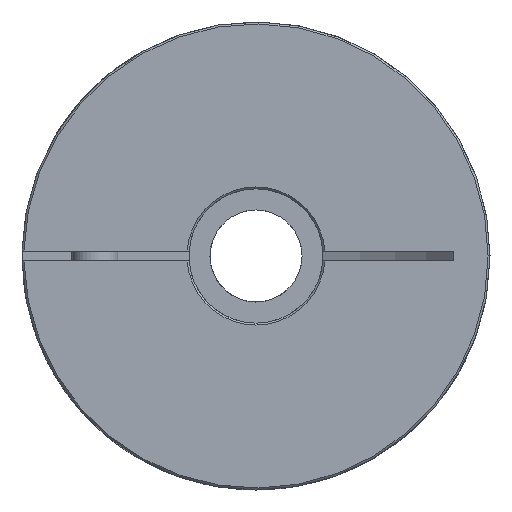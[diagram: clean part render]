
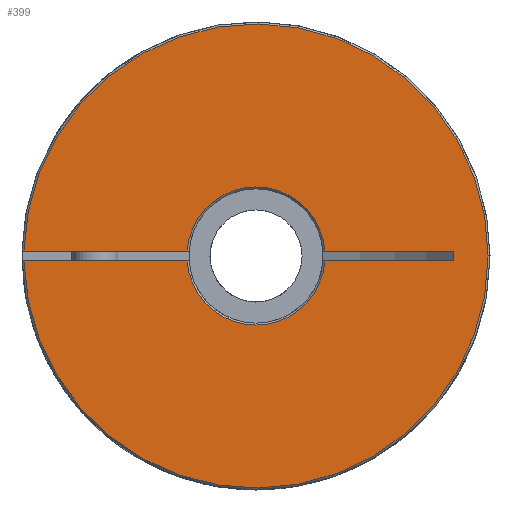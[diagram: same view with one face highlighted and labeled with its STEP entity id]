
A CAD part, left-side view. The second image highlights one B-rep face of the part: STEP entity #399.
In plain terms, the highlighted planar face has unit normal (-1, 0, 0).
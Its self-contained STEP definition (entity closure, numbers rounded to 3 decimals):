
#399 = ADVANCED_FACE( 'NONE', ( #893 ), #894, .F. );
#893 = FACE_OUTER_BOUND( '', #1561, .T. );
#894 = PLANE( '', #1562 );
#1561 = EDGE_LOOP( '', ( #2398, #2399, #2400, #2401, #2402, #2403, #2404, #2405 ) );
#1562 = AXIS2_PLACEMENT_3D( '', #2406, #2407, #2408 );
#2398 = ORIENTED_EDGE( '', *, *, #3734, .T. );
#2399 = ORIENTED_EDGE( '', *, *, #3735, .T. );
#2400 = ORIENTED_EDGE( '', *, *, #3736, .T. );
#2401 = ORIENTED_EDGE( '', *, *, #3737, .T. );
#2402 = ORIENTED_EDGE( '', *, *, #3738, .F. );
#2403 = ORIENTED_EDGE( '', *, *, #3739, .T. );
#2404 = ORIENTED_EDGE( '', *, *, #3611, .F. );
#2405 = ORIENTED_EDGE( '', *, *, #3740, .T. );
#2406 = CARTESIAN_POINT( '', ( 0., 17.5, 0. ) );
#2407 = DIRECTION( '', ( 1., 0., 0. ) );
#2408 = DIRECTION( '', ( 0., 1., 0. ) );
#3611 = EDGE_CURVE( 'NONE', #4226, #4227, #4228, .F. );
#3734 = EDGE_CURVE( 'NONE', #4422, #4423, #4424, .T. );
#3735 = EDGE_CURVE( 'NONE', #4423, #4425, #4426, .T. );
#3736 = EDGE_CURVE( 'NONE', #4425, #4427, #4428, .T. );
#3737 = EDGE_CURVE( 'NONE', #4427, #4429, #4430, .F. );
#3738 = EDGE_CURVE( 'NONE', #4431, #4429, #4432, .F. );
#3739 = EDGE_CURVE( 'NONE', #4431, #4227, #4433, .T. );
#3740 = EDGE_CURVE( 'NONE', #4226, #4422, #4434, .T. );
#4226 = VERTEX_POINT( 'NONE', #5218 );
#4227 = VERTEX_POINT( 'NONE', #5219 );
#4228 = LINE( '', #5220, #5221 );
#4422 = VERTEX_POINT( 'NONE', #5528 );
#4423 = VERTEX_POINT( 'NONE', #5529 );
#4424 = LINE( '', #5530, #5531 );
#4425 = VERTEX_POINT( 'NONE', #5532 );
#4426 = CIRCLE( '', #5533, 18. );
#4427 = VERTEX_POINT( 'NONE', #5534 );
#4428 = LINE( '', #5535, #5536 );
#4429 = VERTEX_POINT( 'NONE', #5537 );
#4430 = CIRCLE( '', #5538, 60.5 );
#4431 = VERTEX_POINT( 'NONE', #5539 );
#4432 = LINE( '', #5540, #5541 );
#4433 = CIRCLE( '', #5542, 18. );
#4434 = LINE( '', #5543, #5544 );
#5218 = CARTESIAN_POINT( '', ( 0., 51.446, -1.3 ) );
#5219 = CARTESIAN_POINT( '', ( 0., 17.953, -1.3 ) );
#5220 = CARTESIAN_POINT( '', ( 0., -13., -1.3 ) );
#5221 = VECTOR( '', #6348, 1000. );
#5528 = CARTESIAN_POINT( '', ( 0., 51.446, 1.3 ) );
#5529 = CARTESIAN_POINT( '', ( 0., 17.953, 1.3 ) );
#5530 = CARTESIAN_POINT( '', ( 0., 17.5, 1.3 ) );
#5531 = VECTOR( '', #6528, 1000. );
#5532 = CARTESIAN_POINT( '', ( 0., -17.953, 1.3 ) );
#5533 = AXIS2_PLACEMENT_3D( '', #6529, #6530, #6531 );
#5534 = CARTESIAN_POINT( '', ( 0., -60.486, 1.3 ) );
#5535 = CARTESIAN_POINT( '', ( 0., 17.5, 1.3 ) );
#5536 = VECTOR( '', #6532, 1000. );
#5537 = CARTESIAN_POINT( '', ( 0., -60.486, -1.3 ) );
#5538 = AXIS2_PLACEMENT_3D( '', #6533, #6534, #6535 );
#5539 = CARTESIAN_POINT( '', ( 0., -17.953, -1.3 ) );
#5540 = CARTESIAN_POINT( '', ( 0., -13., -1.3 ) );
#5541 = VECTOR( '', #6536, 1000. );
#5542 = AXIS2_PLACEMENT_3D( '', #6537, #6538, #6539 );
#5543 = CARTESIAN_POINT( '', ( 0., 51.446, -1.3 ) );
#5544 = VECTOR( '', #6540, 1000. );
#6348 = DIRECTION( '', ( 0., 1., 0. ) );
#6528 = DIRECTION( '', ( 0., -1., 0. ) );
#6529 = CARTESIAN_POINT( '', ( 0., 0., 0. ) );
#6530 = DIRECTION( '', ( 1., 0., 0. ) );
#6531 = DIRECTION( '', ( 0., 0., -1. ) );
#6532 = DIRECTION( '', ( 0., -1., 0. ) );
#6533 = CARTESIAN_POINT( '', ( 0., 0., 0. ) );
#6534 = DIRECTION( '', ( 1., 0., 0. ) );
#6535 = DIRECTION( '', ( 0., 0., -1. ) );
#6536 = DIRECTION( '', ( 0., 1., 0. ) );
#6537 = CARTESIAN_POINT( '', ( 0., 0., 0. ) );
#6538 = DIRECTION( '', ( 1., 0., 0. ) );
#6539 = DIRECTION( '', ( 0., 0., -1. ) );
#6540 = DIRECTION( '', ( 0., 0., 1. ) );
